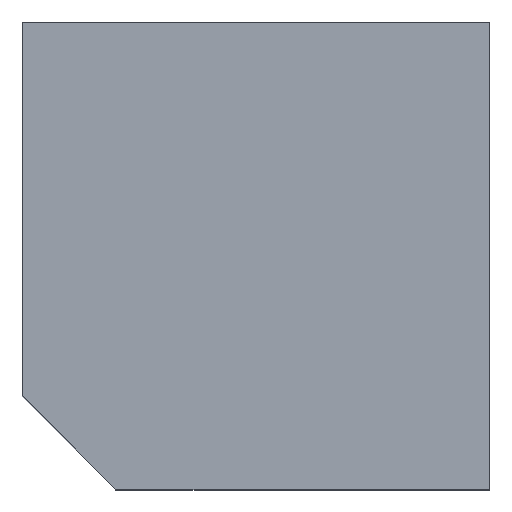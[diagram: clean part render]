
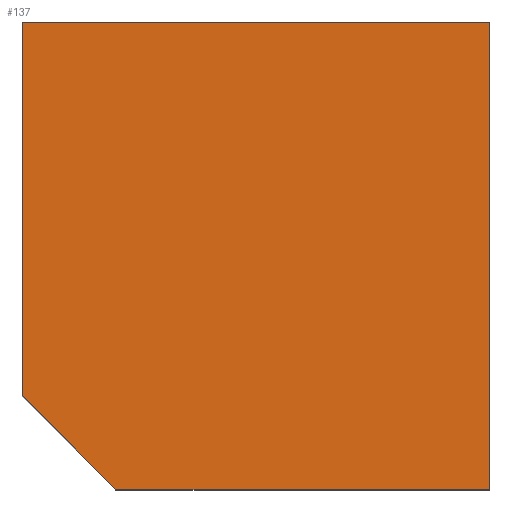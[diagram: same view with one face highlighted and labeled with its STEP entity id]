
A CAD part, top view. The second image highlights one B-rep face of the part: STEP entity #137.
In plain terms, the highlighted planar face has unit normal (0, 0, 1).
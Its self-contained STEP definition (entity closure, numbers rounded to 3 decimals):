
#21 = EDGE_CURVE('',#22,#24,#26,.T.);
#22 = VERTEX_POINT('',#23);
#23 = CARTESIAN_POINT('',(0.,2.,10.));
#24 = VERTEX_POINT('',#25);
#25 = CARTESIAN_POINT('',(0.,10.,10.));
#26 = SURFACE_CURVE('',#27,(#31,#43),.PCURVE_S1.);
#27 = LINE('',#28,#29);
#28 = CARTESIAN_POINT('',(0.,0.,10.));
#29 = VECTOR('',#30,1.);
#30 = DIRECTION('',(-0.,1.,0.));
#31 = PCURVE('',#32,#37);
#32 = PLANE('',#33);
#33 = AXIS2_PLACEMENT_3D('',#34,#35,#36);
#34 = CARTESIAN_POINT('',(0.,0.,0.));
#35 = DIRECTION('',(1.,0.,-0.));
#36 = DIRECTION('',(0.,0.,1.));
#37 = DEFINITIONAL_REPRESENTATION('',(#38),#42);
#38 = LINE('',#39,#40);
#39 = CARTESIAN_POINT('',(10.,0.));
#40 = VECTOR('',#41,1.);
#41 = DIRECTION('',(0.,-1.));
#42 = ( GEOMETRIC_REPRESENTATION_CONTEXT(2) 
PARAMETRIC_REPRESENTATION_CONTEXT() REPRESENTATION_CONTEXT('2D SPACE',''
  ) );
#43 = PCURVE('',#44,#49);
#44 = PLANE('',#45);
#45 = AXIS2_PLACEMENT_3D('',#46,#47,#48);
#46 = CARTESIAN_POINT('',(0.,0.,10.));
#47 = DIRECTION('',(0.,0.,1.));
#48 = DIRECTION('',(1.,0.,-0.));
#49 = DEFINITIONAL_REPRESENTATION('',(#50),#54);
#50 = LINE('',#51,#52);
#51 = CARTESIAN_POINT('',(0.,0.));
#52 = VECTOR('',#53,1.);
#53 = DIRECTION('',(0.,1.));
#54 = ( GEOMETRIC_REPRESENTATION_CONTEXT(2) 
PARAMETRIC_REPRESENTATION_CONTEXT() REPRESENTATION_CONTEXT('2D SPACE',''
  ) );
#72 = PLANE('',#73);
#73 = AXIS2_PLACEMENT_3D('',#74,#75,#76);
#74 = CARTESIAN_POINT('',(1.,1.,0.));
#75 = DIRECTION('',(-0.707,-0.707,0.)
  );
#76 = DIRECTION('',(0.,0.,-1.));
#126 = PLANE('',#127);
#127 = AXIS2_PLACEMENT_3D('',#128,#129,#130);
#128 = CARTESIAN_POINT('',(0.,10.,0.));
#129 = DIRECTION('',(-0.,1.,0.));
#130 = DIRECTION('',(0.,0.,1.));
#137 = ADVANCED_FACE('',(#138),#44,.T.);
#138 = FACE_BOUND('',#139,.T.);
#139 = EDGE_LOOP('',(#140,#141,#164,#192,#220));
#140 = ORIENTED_EDGE('',*,*,#21,.F.);
#141 = ORIENTED_EDGE('',*,*,#142,.T.);
#142 = EDGE_CURVE('',#22,#143,#145,.T.);
#143 = VERTEX_POINT('',#144);
#144 = CARTESIAN_POINT('',(2.,0.,10.));
#145 = SURFACE_CURVE('',#146,(#150,#157),.PCURVE_S1.);
#146 = LINE('',#147,#148);
#147 = CARTESIAN_POINT('',(1.,1.,10.));
#148 = VECTOR('',#149,1.);
#149 = DIRECTION('',(0.707,-0.707,0.));
#150 = PCURVE('',#44,#151);
#151 = DEFINITIONAL_REPRESENTATION('',(#152),#156);
#152 = LINE('',#153,#154);
#153 = CARTESIAN_POINT('',(1.,1.));
#154 = VECTOR('',#155,1.);
#155 = DIRECTION('',(0.707,-0.707));
#156 = ( GEOMETRIC_REPRESENTATION_CONTEXT(2) 
PARAMETRIC_REPRESENTATION_CONTEXT() REPRESENTATION_CONTEXT('2D SPACE',''
  ) );
#157 = PCURVE('',#72,#158);
#158 = DEFINITIONAL_REPRESENTATION('',(#159),#163);
#159 = LINE('',#160,#161);
#160 = CARTESIAN_POINT('',(-10.,0.));
#161 = VECTOR('',#162,1.);
#162 = DIRECTION('',(0.,1.));
#163 = ( GEOMETRIC_REPRESENTATION_CONTEXT(2) 
PARAMETRIC_REPRESENTATION_CONTEXT() REPRESENTATION_CONTEXT('2D SPACE',''
  ) );
#164 = ORIENTED_EDGE('',*,*,#165,.T.);
#165 = EDGE_CURVE('',#143,#166,#168,.T.);
#166 = VERTEX_POINT('',#167);
#167 = CARTESIAN_POINT('',(10.,0.,10.));
#168 = SURFACE_CURVE('',#169,(#173,#180),.PCURVE_S1.);
#169 = LINE('',#170,#171);
#170 = CARTESIAN_POINT('',(0.,0.,10.));
#171 = VECTOR('',#172,1.);
#172 = DIRECTION('',(1.,0.,-0.));
#173 = PCURVE('',#44,#174);
#174 = DEFINITIONAL_REPRESENTATION('',(#175),#179);
#175 = LINE('',#176,#177);
#176 = CARTESIAN_POINT('',(0.,0.));
#177 = VECTOR('',#178,1.);
#178 = DIRECTION('',(1.,0.));
#179 = ( GEOMETRIC_REPRESENTATION_CONTEXT(2) 
PARAMETRIC_REPRESENTATION_CONTEXT() REPRESENTATION_CONTEXT('2D SPACE',''
  ) );
#180 = PCURVE('',#181,#186);
#181 = PLANE('',#182);
#182 = AXIS2_PLACEMENT_3D('',#183,#184,#185);
#183 = CARTESIAN_POINT('',(0.,0.,0.));
#184 = DIRECTION('',(-0.,1.,0.));
#185 = DIRECTION('',(0.,0.,1.));
#186 = DEFINITIONAL_REPRESENTATION('',(#187),#191);
#187 = LINE('',#188,#189);
#188 = CARTESIAN_POINT('',(10.,0.));
#189 = VECTOR('',#190,1.);
#190 = DIRECTION('',(0.,1.));
#191 = ( GEOMETRIC_REPRESENTATION_CONTEXT(2) 
PARAMETRIC_REPRESENTATION_CONTEXT() REPRESENTATION_CONTEXT('2D SPACE',''
  ) );
#192 = ORIENTED_EDGE('',*,*,#193,.T.);
#193 = EDGE_CURVE('',#166,#194,#196,.T.);
#194 = VERTEX_POINT('',#195);
#195 = CARTESIAN_POINT('',(10.,10.,10.));
#196 = SURFACE_CURVE('',#197,(#201,#208),.PCURVE_S1.);
#197 = LINE('',#198,#199);
#198 = CARTESIAN_POINT('',(10.,0.,10.));
#199 = VECTOR('',#200,1.);
#200 = DIRECTION('',(-0.,1.,0.));
#201 = PCURVE('',#44,#202);
#202 = DEFINITIONAL_REPRESENTATION('',(#203),#207);
#203 = LINE('',#204,#205);
#204 = CARTESIAN_POINT('',(10.,0.));
#205 = VECTOR('',#206,1.);
#206 = DIRECTION('',(0.,1.));
#207 = ( GEOMETRIC_REPRESENTATION_CONTEXT(2) 
PARAMETRIC_REPRESENTATION_CONTEXT() REPRESENTATION_CONTEXT('2D SPACE',''
  ) );
#208 = PCURVE('',#209,#214);
#209 = PLANE('',#210);
#210 = AXIS2_PLACEMENT_3D('',#211,#212,#213);
#211 = CARTESIAN_POINT('',(10.,0.,0.));
#212 = DIRECTION('',(1.,0.,-0.));
#213 = DIRECTION('',(0.,0.,1.));
#214 = DEFINITIONAL_REPRESENTATION('',(#215),#219);
#215 = LINE('',#216,#217);
#216 = CARTESIAN_POINT('',(10.,0.));
#217 = VECTOR('',#218,1.);
#218 = DIRECTION('',(0.,-1.));
#219 = ( GEOMETRIC_REPRESENTATION_CONTEXT(2) 
PARAMETRIC_REPRESENTATION_CONTEXT() REPRESENTATION_CONTEXT('2D SPACE',''
  ) );
#220 = ORIENTED_EDGE('',*,*,#221,.F.);
#221 = EDGE_CURVE('',#24,#194,#222,.T.);
#222 = SURFACE_CURVE('',#223,(#227,#234),.PCURVE_S1.);
#223 = LINE('',#224,#225);
#224 = CARTESIAN_POINT('',(0.,10.,10.));
#225 = VECTOR('',#226,1.);
#226 = DIRECTION('',(1.,0.,-0.));
#227 = PCURVE('',#44,#228);
#228 = DEFINITIONAL_REPRESENTATION('',(#229),#233);
#229 = LINE('',#230,#231);
#230 = CARTESIAN_POINT('',(0.,10.));
#231 = VECTOR('',#232,1.);
#232 = DIRECTION('',(1.,0.));
#233 = ( GEOMETRIC_REPRESENTATION_CONTEXT(2) 
PARAMETRIC_REPRESENTATION_CONTEXT() REPRESENTATION_CONTEXT('2D SPACE',''
  ) );
#234 = PCURVE('',#126,#235);
#235 = DEFINITIONAL_REPRESENTATION('',(#236),#240);
#236 = LINE('',#237,#238);
#237 = CARTESIAN_POINT('',(10.,0.));
#238 = VECTOR('',#239,1.);
#239 = DIRECTION('',(0.,1.));
#240 = ( GEOMETRIC_REPRESENTATION_CONTEXT(2) 
PARAMETRIC_REPRESENTATION_CONTEXT() REPRESENTATION_CONTEXT('2D SPACE',''
  ) );
